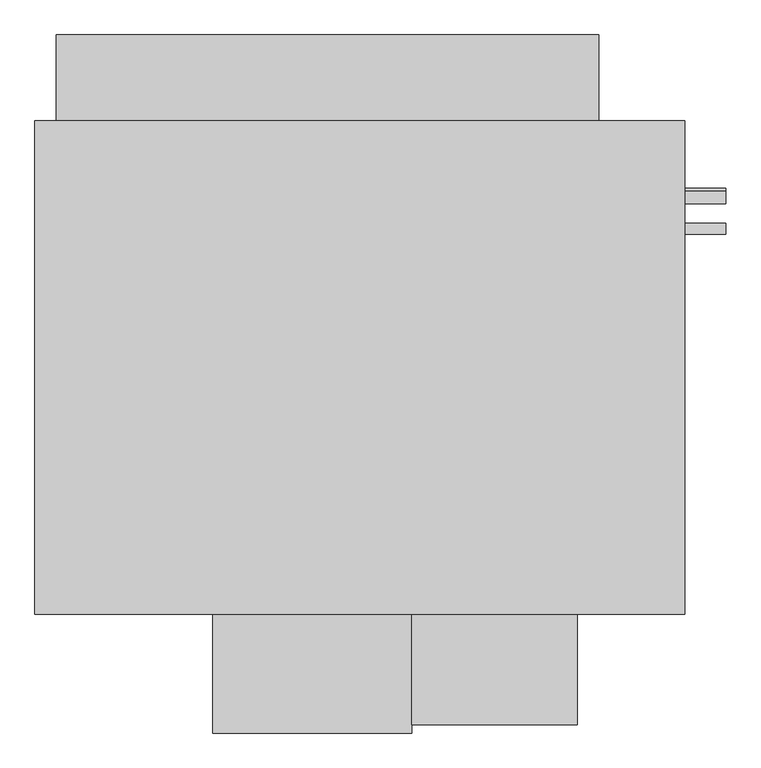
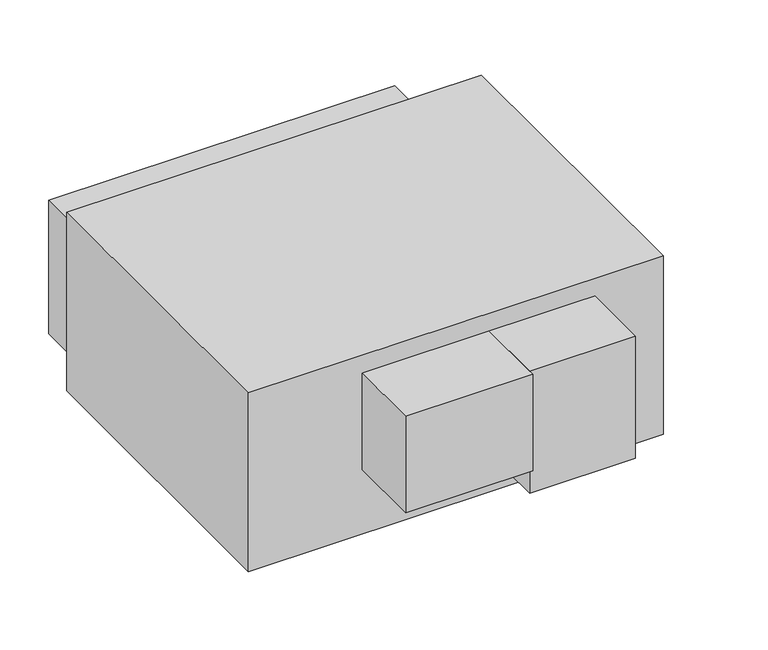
"""IFC4 building model written with IfcOpenShell, lengths in millimetres: proxy geometry, Horizontal_Direct_Drive_Blower_Coil_Unit_-_42DHA_-_CARRIER_-_2-Pipe_Cool-EHeat_RH_2022 : Size 20 - 460v/60Hz/3Ph - 8 Row 19.9kW."""

from ifc_helpers import new_model, si_unit, point, frame, frame_2d, origin, place, context, project, spatial, polyline, circle_curve, trimmed, segment, composite_curve, outline, extrude, source, transform, mapped, element, save


def mechanical_equipment_0b7b95ba(model_context):
    return source(origin(), model_context, "Body", "SweptSolid", [
        extrude(outline(polyline([(279.4, 492.125), (279.4, -530.225), (-1066.8, -530.225), (-1066.8, 492.125), (279.4, 492.125)])), frame((0.0, 0.0, -612.7558174), z_axis=(0.0, 0.0, 1.0), x_axis=(1.0, 0.0, 0.0)), (0.0, 0.0, 1.0), 612.7558174),
        extrude(outline(polyline([(57.15, -758.825), (-285.75, -758.825), (-285.75, -530.225), (57.15, -530.225), (57.15, -758.825)])), frame((0.0, 0.0, -479.4058174), z_axis=(0.0, 0.0, 1.0), x_axis=(1.0, 0.0, 0.0)), (0.0, 0.0, 1.0), 419.1),
        extrude(outline(composite_curve([segment(trimmed(circle_curve(frame_2d((333.375, -177.8)), 12.7), [point((346.075, -177.8))], [point((320.675, -177.8))], False, "CARTESIAN"), True, "CONTINUOUS"), segment(trimmed(circle_curve(frame_2d((333.375, -177.8)), 12.7), [point((320.675, -177.8))], [point((346.075, -177.8))], False, "CARTESIAN"), True, "CONTINUOUS")], self_intersect=False)), frame((279.4, 0.0, 0.0), z_axis=(1.0, 0.0, 0.0), x_axis=(0.0, 1.0, 0.0)), (0.0, 0.0, 1.0), 85.2932),
        extrude(outline(composite_curve([segment(trimmed(circle_curve(frame_2d((340.130856, -485.7558174)), 12.7), [point((352.830856, -485.7558174))], [point((327.430856, -485.7558174))], False, "CARTESIAN"), True, "CONTINUOUS"), segment(trimmed(circle_curve(frame_2d((340.130856, -485.7558174)), 12.7), [point((327.430856, -485.7558174))], [point((352.830856, -485.7558174))], False, "CARTESIAN"), True, "CONTINUOUS")], self_intersect=False)), frame((279.4, 0.0, 0.0), z_axis=(1.0, 0.0, 0.0), x_axis=(0.0, 1.0, 0.0)), (0.0, 0.0, 1.0), 85.2932),
        extrude(outline(composite_curve([segment(trimmed(circle_curve(frame_2d((268.4630494, -568.3058174)), 11.1125), [point((279.5755494, -568.3058174))], [point((257.3505494, -568.3058174))], False, "CARTESIAN"), True, "CONTINUOUS"), segment(trimmed(circle_curve(frame_2d((268.4630494, -568.3058174)), 11.1125), [point((257.3505494, -568.3058174))], [point((279.5755494, -568.3058174))], False, "CARTESIAN"), True, "CONTINUOUS")], self_intersect=False)), frame((279.4, 0.0, 0.0), z_axis=(1.0, 0.0, 0.0), x_axis=(0.0, 1.0, 0.0)), (0.0, 0.0, 1.0), 85.2932),
        extrude(outline(polyline([(-1022.35, 669.925), (101.6, 669.925), (101.6, 492.125), (-1022.35, 492.125), (-1022.35, 669.925)])), frame((0.0, 0.0, -539.7308174), z_axis=(0.0, 0.0, 1.0), x_axis=(1.0, 0.0, 0.0)), (0.0, 0.0, 1.0), 457.2),
        extrude(outline(polyline([(-285.75, -776.2875), (-698.5, -776.2875), (-698.5, -530.225), (-285.75, -530.225), (-285.75, -776.2875)])), frame((0.0, 0.0, -390.5058174), z_axis=(0.0, 0.0, 1.0), x_axis=(1.0, 0.0, 0.0)), (0.0, 0.0, 1.0), 330.2),
    ])


if __name__ == "__main__":
    model = new_model("IFC4")
    model_context = context("Model", 3, world=origin())
    ifc_project = project(units=[si_unit("LENGTHUNIT", "METRE", prefix="MILLI")], contexts=[model_context])
    site = spatial("IfcSite", under=ifc_project)
    building = spatial("IfcBuilding", under=site)
    placement = place(None, origin())
    mechanical_equipment_shape = mechanical_equipment_0b7b95ba(model_context)
    element("IfcBuildingElementProxy", 1, Name="Horizontal_Direct_Drive_Blower_Coil_Unit_-_42DHA_-_CARRIER_-_2-Pipe_Cool-EHeat_RH_2022 : Size 20 - 460v/60Hz/3Ph - 8 Row 19.9kW", ObjectType="Horizontal_Direct_Drive_Blower_Coil_Unit_-_42DHA_-_CARRIER_-_2-Pipe_Cool-EHeat_RH_2022 : Size 20 - 460v/60Hz/3Ph - 8 Row 19.9kW", at=placement, inside=building, context=model_context, shape_type="MappedRepresentation", body=[
        mapped(mechanical_equipment_shape, transform((0.0, 0.0, 0.0), x_axis=(1.0, 0.0, 0.0), y_axis=(0.0, 1.0, 0.0), z_axis=(0.0, 0.0, 1.0))),
    ])
    save(model, "model.ifc")
